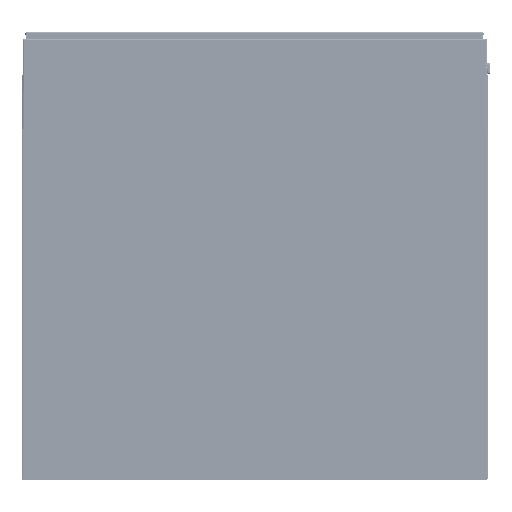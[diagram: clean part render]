
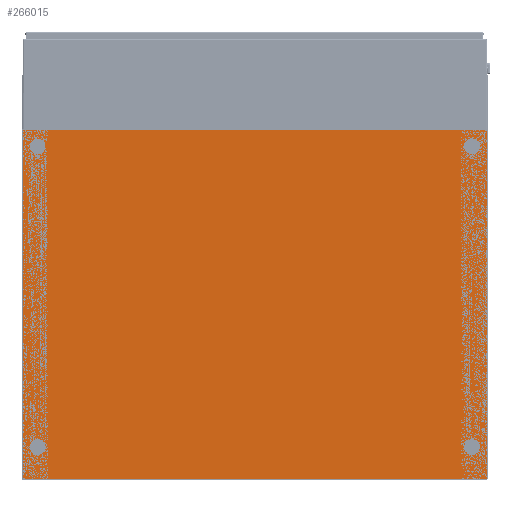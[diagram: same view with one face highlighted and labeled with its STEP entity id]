
A CAD part, front view. The second image highlights one B-rep face of the part: STEP entity #266015.
In plain terms, the highlighted planar face has unit normal (0, -1, 0).
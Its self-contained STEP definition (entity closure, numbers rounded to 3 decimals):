
#265757=DIRECTION('',(-1.,0.,0.));
#265758=VECTOR('',#265757,592.8);
#265759=CARTESIAN_POINT('',(296.4,-1780.,188.4));
#265760=LINE('',#265759,#265758);
#265761=DIRECTION('',(0.,0.,1.));
#265762=VECTOR('',#265761,446.8);
#265763=CARTESIAN_POINT('',(296.4,-1780.,-258.4));
#265764=LINE('',#265763,#265762);
#265765=DIRECTION('',(1.,0.,0.));
#265766=VECTOR('',#265765,592.8);
#265767=CARTESIAN_POINT('',(-296.4,-1780.,-258.4));
#265768=LINE('',#265767,#265766);
#265769=DIRECTION('',(0.,0.,-1.));
#265770=VECTOR('',#265769,446.8);
#265771=CARTESIAN_POINT('',(-296.4,-1780.,188.4));
#265772=LINE('',#265771,#265770);
#265773=CARTESIAN_POINT('',(-277.5,-1780.,167.));
#265774=DIRECTION('',(0.,-1.,0.));
#265775=DIRECTION('',(1.,0.,0.));
#265776=AXIS2_PLACEMENT_3D('',#265773,#265774,#265775);
#265778=CARTESIAN_POINT('',(-277.5,-1780.,167.));
#265779=DIRECTION('',(0.,-1.,0.));
#265780=DIRECTION('',(-1.,0.,0.));
#265781=AXIS2_PLACEMENT_3D('',#265778,#265779,#265780);
#265783=CARTESIAN_POINT('',(277.5,-1780.,167.));
#265784=DIRECTION('',(0.,-1.,0.));
#265785=DIRECTION('',(1.,0.,0.));
#265786=AXIS2_PLACEMENT_3D('',#265783,#265784,#265785);
#265788=CARTESIAN_POINT('',(277.5,-1780.,167.));
#265789=DIRECTION('',(0.,-1.,0.));
#265790=DIRECTION('',(-1.,0.,0.));
#265791=AXIS2_PLACEMENT_3D('',#265788,#265789,#265790);
#265793=CARTESIAN_POINT('',(-277.5,-1780.,-217.));
#265794=DIRECTION('',(0.,-1.,0.));
#265795=DIRECTION('',(1.,0.,0.));
#265796=AXIS2_PLACEMENT_3D('',#265793,#265794,#265795);
#265798=CARTESIAN_POINT('',(-277.5,-1780.,-217.));
#265799=DIRECTION('',(0.,-1.,0.));
#265800=DIRECTION('',(-1.,0.,0.));
#265801=AXIS2_PLACEMENT_3D('',#265798,#265799,#265800);
#265803=CARTESIAN_POINT('',(277.5,-1780.,-217.));
#265804=DIRECTION('',(0.,-1.,0.));
#265805=DIRECTION('',(1.,0.,0.));
#265806=AXIS2_PLACEMENT_3D('',#265803,#265804,#265805);
#265808=CARTESIAN_POINT('',(277.5,-1780.,-217.));
#265809=DIRECTION('',(0.,-1.,0.));
#265810=DIRECTION('',(-1.,0.,0.));
#265811=AXIS2_PLACEMENT_3D('',#265808,#265809,#265810);
#265913=CARTESIAN_POINT('',(296.4,-1780.,188.4));
#265914=CARTESIAN_POINT('',(-296.4,-1780.,188.4));
#265915=VERTEX_POINT('',#265913);
#265916=VERTEX_POINT('',#265914);
#265917=CARTESIAN_POINT('',(-296.4,-1780.,-258.4));
#265918=VERTEX_POINT('',#265917);
#265919=CARTESIAN_POINT('',(296.4,-1780.,-258.4));
#265920=VERTEX_POINT('',#265919);
#265945=CARTESIAN_POINT('',(-267.5,-1780.,167.));
#265946=CARTESIAN_POINT('',(-287.5,-1780.,167.));
#265947=VERTEX_POINT('',#265945);
#265948=VERTEX_POINT('',#265946);
#265949=CARTESIAN_POINT('',(287.5,-1780.,167.));
#265950=CARTESIAN_POINT('',(267.5,-1780.,167.));
#265951=VERTEX_POINT('',#265949);
#265952=VERTEX_POINT('',#265950);
#265953=CARTESIAN_POINT('',(-267.5,-1780.,-217.));
#265954=CARTESIAN_POINT('',(-287.5,-1780.,-217.));
#265955=VERTEX_POINT('',#265953);
#265956=VERTEX_POINT('',#265954);
#265957=CARTESIAN_POINT('',(287.5,-1780.,-217.));
#265958=CARTESIAN_POINT('',(267.5,-1780.,-217.));
#265959=VERTEX_POINT('',#265957);
#265960=VERTEX_POINT('',#265958);
#265977=CARTESIAN_POINT('',(0.,-1780.,0.));
#265978=DIRECTION('',(0.,-1.,0.));
#265979=DIRECTION('',(0.,0.,-1.));
#265980=AXIS2_PLACEMENT_3D('',#265977,#265978,#265979);
#265981=PLANE('',#265980);
#265983=ORIENTED_EDGE('',*,*,#265982,.F.);
#265985=ORIENTED_EDGE('',*,*,#265984,.F.);
#265987=ORIENTED_EDGE('',*,*,#265986,.F.);
#265989=ORIENTED_EDGE('',*,*,#265988,.F.);
#265990=EDGE_LOOP('',(#265983,#265985,#265987,#265989));
#265991=FACE_OUTER_BOUND('',#265990,.F.);
#265993=ORIENTED_EDGE('',*,*,#265992,.T.);
#265995=ORIENTED_EDGE('',*,*,#265994,.T.);
#265996=EDGE_LOOP('',(#265993,#265995));
#265997=FACE_BOUND('',#265996,.F.);
#265999=ORIENTED_EDGE('',*,*,#265998,.T.);
#266001=ORIENTED_EDGE('',*,*,#266000,.T.);
#266002=EDGE_LOOP('',(#265999,#266001));
#266003=FACE_BOUND('',#266002,.F.);
#266005=ORIENTED_EDGE('',*,*,#266004,.T.);
#266007=ORIENTED_EDGE('',*,*,#266006,.T.);
#266008=EDGE_LOOP('',(#266005,#266007));
#266009=FACE_BOUND('',#266008,.F.);
#266011=ORIENTED_EDGE('',*,*,#266010,.T.);
#266012=ORIENTED_EDGE('',*,*,#265966,.T.);
#266013=EDGE_LOOP('',(#266011,#266012));
#266014=FACE_BOUND('',#266013,.F.);
#266015=ADVANCED_FACE('',(#265991,#265997,#266003,#266009,#266014),#265981,.T.);
#265777=CIRCLE('',#265776,10.);
#265782=CIRCLE('',#265781,10.);
#265787=CIRCLE('',#265786,10.);
#265792=CIRCLE('',#265791,10.);
#265797=CIRCLE('',#265796,10.);
#265802=CIRCLE('',#265801,10.);
#265807=CIRCLE('',#265806,10.);
#265812=CIRCLE('',#265811,10.);
#265966=EDGE_CURVE('',#265960,#265959,#265812,.T.);
#265982=EDGE_CURVE('',#265915,#265916,#265760,.T.);
#265984=EDGE_CURVE('',#265920,#265915,#265764,.T.);
#265986=EDGE_CURVE('',#265918,#265920,#265768,.T.);
#265988=EDGE_CURVE('',#265916,#265918,#265772,.T.);
#265992=EDGE_CURVE('',#265947,#265948,#265777,.T.);
#265994=EDGE_CURVE('',#265948,#265947,#265782,.T.);
#265998=EDGE_CURVE('',#265951,#265952,#265787,.T.);
#266000=EDGE_CURVE('',#265952,#265951,#265792,.T.);
#266004=EDGE_CURVE('',#265955,#265956,#265797,.T.);
#266006=EDGE_CURVE('',#265956,#265955,#265802,.T.);
#266010=EDGE_CURVE('',#265959,#265960,#265807,.T.);
